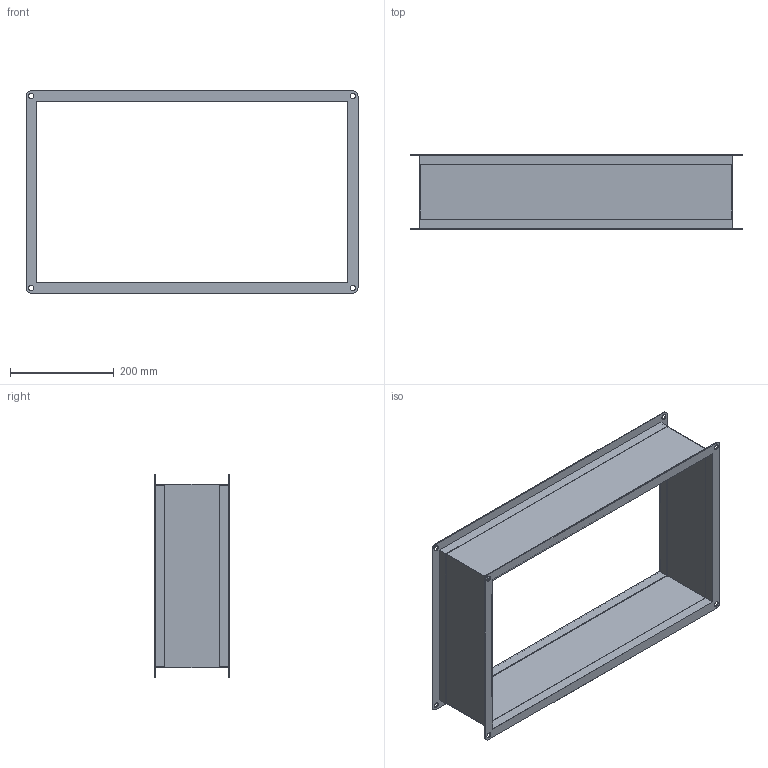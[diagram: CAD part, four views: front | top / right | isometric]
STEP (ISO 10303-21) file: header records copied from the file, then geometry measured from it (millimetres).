
FILE_DESCRIPTION(/* description */ (''),/* implementation_level */ '2;1');
FILE_NAME(/* name */ 'Z:\Output\VS_60-35_Ex-00268-001.stp',/* time_stamp */ '2017-11-10T11:33:30+01:00',/* author */ ('Engineering1'),/* organization */ (''),/* preprocessor_version */ 'ST-DEVELOPER v16.5',/* originating_system */ 'Autodesk Inventor 2017',/* authorisation */ '');
FILE_SCHEMA (('AUTOMOTIVE_DESIGN { 1 0 10303 214 3 1 1 }'));
Length unit declared in the file: millimetre
Products named in the file (1): VS-1
Bounding box: 640 x 145 x 390 mm (x, y, z)
Volume: 494387.2 mm3; surface area: 707210.3 mm2
Topology: 1 solids, 1 shells, 56 faces, 148 edges, 100 vertices
Faces by surface type: plane 40, cylinder 16
Full cylindrical faces by diameter (mm): 10.5 x8
Entity records: 1741 total; most frequent: CARTESIAN_POINT 289, DIRECTION 282, ORIENTED_EDGE 272, EDGE_CURVE 136, LINE 104, VECTOR 104, VERTEX_POINT 96, AXIS2_PLACEMENT_3D 89
